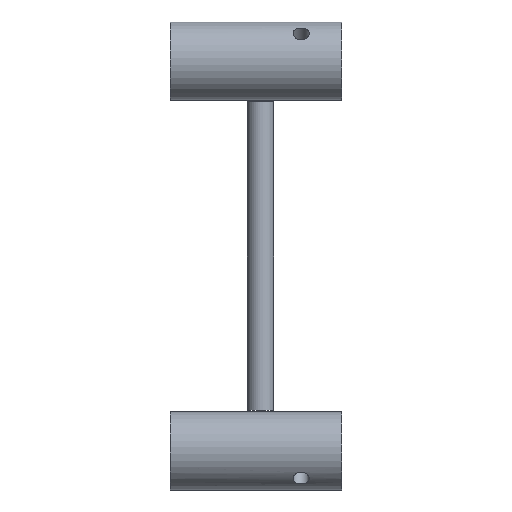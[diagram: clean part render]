
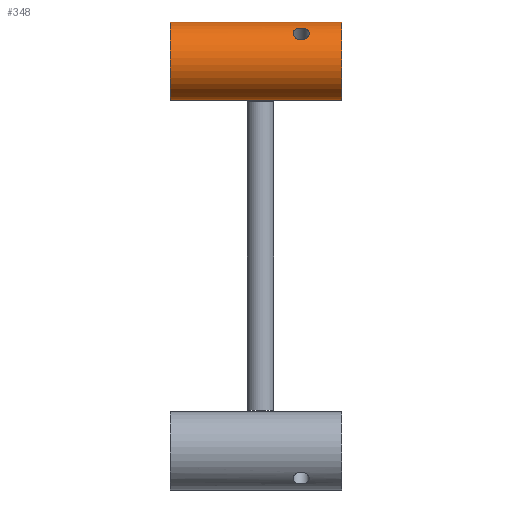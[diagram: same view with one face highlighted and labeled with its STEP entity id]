
A CAD part, front view. The second image highlights one B-rep face of the part: STEP entity #348.
In plain terms, the highlighted cylindrical face has radius 24.15 mm (diameter 48.3 mm), a full revolution.
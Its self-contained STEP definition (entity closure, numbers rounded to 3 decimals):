
#13=B_SPLINE_CURVE_WITH_KNOTS('',3,(#530,#531,#532,#533,#534,#535,#536,
#537,#538,#539,#540,#541,#542,#543,#544,#545,#546,#547,#548),
 .UNSPECIFIED.,.F.,.F.,(4,2,2,2,3,2,2,2,4),(2.267,2.456,
2.645,2.834,3.023,3.212,3.401,
3.59,3.779),.UNSPECIFIED.);
#14=B_SPLINE_CURVE_WITH_KNOTS('',3,(#549,#550,#551,#552,#553,#554,#555,
#556,#557,#558,#559,#560,#561,#562,#563,#564,#565,#566),.UNSPECIFIED.,.F.,
 .F.,(4,2,2,2,2,2,2,2,4),(0.756,0.945,1.134,
1.323,1.511,1.7,1.889,2.078,
2.267),.UNSPECIFIED.);
#15=B_SPLINE_CURVE_WITH_KNOTS('',3,(#569,#570,#571,#572,#573,#574,#575,
#576,#577,#578,#579,#580,#581,#582,#583,#584,#585,#586),.UNSPECIFIED.,.F.,
 .F.,(4,2,2,2,2,2,2,2,4),(0.756,0.945,1.134,
1.323,1.511,1.7,1.889,2.078,
2.267),.UNSPECIFIED.);
#16=B_SPLINE_CURVE_WITH_KNOTS('',3,(#587,#588,#589,#590,#591,#592,#593,
#594,#595,#596,#597,#598,#599,#600,#601,#602,#603,#604,#605),
 .UNSPECIFIED.,.F.,.F.,(4,2,2,2,3,2,2,2,4),(2.267,2.456,
2.645,2.834,3.023,3.212,3.401,
3.59,3.779),.UNSPECIFIED.);
#40=FACE_BOUND('',#108,.T.);
#41=FACE_BOUND('',#109,.T.);
#42=FACE_BOUND('',#110,.T.);
#60=CYLINDRICAL_SURFACE('',#389,24.15);
#76=FACE_OUTER_BOUND('',#107,.T.);
#107=EDGE_LOOP('',(#237));
#108=EDGE_LOOP('',(#238,#239));
#109=EDGE_LOOP('',(#240,#241));
#110=EDGE_LOOP('',(#242));
#149=CIRCLE('',#390,24.15);
#150=CIRCLE('',#391,24.15);
#165=VERTEX_POINT('',#528);
#166=VERTEX_POINT('',#529);
#167=VERTEX_POINT('',#567);
#168=VERTEX_POINT('',#568);
#169=VERTEX_POINT('',#607);
#170=VERTEX_POINT('',#609);
#197=EDGE_CURVE('',#165,#166,#13,.T.);
#198=EDGE_CURVE('',#166,#165,#14,.T.);
#199=EDGE_CURVE('',#167,#168,#15,.T.);
#200=EDGE_CURVE('',#168,#167,#16,.T.);
#201=EDGE_CURVE('',#169,#169,#149,.T.);
#202=EDGE_CURVE('',#170,#170,#150,.T.);
#237=ORIENTED_EDGE('',*,*,#201,.F.);
#238=ORIENTED_EDGE('',*,*,#198,.T.);
#239=ORIENTED_EDGE('',*,*,#197,.T.);
#240=ORIENTED_EDGE('',*,*,#199,.T.);
#241=ORIENTED_EDGE('',*,*,#200,.T.);
#242=ORIENTED_EDGE('',*,*,#202,.T.);
#348=ADVANCED_FACE('',(#76,#40,#41,#42),#60,.T.);
#389=AXIS2_PLACEMENT_3D('',#606,#446,#447);
#390=AXIS2_PLACEMENT_3D('',#608,#448,#449);
#391=AXIS2_PLACEMENT_3D('',#610,#450,#451);
#446=DIRECTION('center_axis',(1.,0.,0.));
#447=DIRECTION('ref_axis',(0.,-0.707,0.707));
#448=DIRECTION('center_axis',(1.,0.,0.));
#449=DIRECTION('ref_axis',(0.,-0.707,0.707));
#450=DIRECTION('center_axis',(1.,0.,0.));
#451=DIRECTION('ref_axis',(0.,-0.707,0.707));
#528=CARTESIAN_POINT('',(75.5,-261.721,11.503));
#529=CARTESIAN_POINT('',(85.5,-261.721,11.503));
#530=CARTESIAN_POINT('Ctrl Pts',(75.5,-261.721,11.503));
#531=CARTESIAN_POINT('Ctrl Pts',(75.5,-261.276,11.948));
#532=CARTESIAN_POINT('Ctrl Pts',(75.626,-260.783,12.403));
#533=CARTESIAN_POINT('Ctrl Pts',(76.137,-259.843,13.204));
#534=CARTESIAN_POINT('Ctrl Pts',(76.522,-259.397,13.552));
#535=CARTESIAN_POINT('Ctrl Pts',(77.407,-258.678,14.085));
#536=CARTESIAN_POINT('Ctrl Pts',(77.968,-258.356,14.308));
#537=CARTESIAN_POINT('Ctrl Pts',(79.2,-257.925,14.598));
#538=CARTESIAN_POINT('Ctrl Pts',(79.87,-257.816,14.668));
#539=CARTESIAN_POINT('Ctrl Pts',(80.5,-257.816,14.668));
#540=CARTESIAN_POINT('Ctrl Pts',(81.13,-257.816,14.668));
#541=CARTESIAN_POINT('Ctrl Pts',(81.8,-257.925,14.598));
#542=CARTESIAN_POINT('Ctrl Pts',(83.032,-258.356,14.308));
#543=CARTESIAN_POINT('Ctrl Pts',(83.593,-258.678,14.085));
#544=CARTESIAN_POINT('Ctrl Pts',(84.478,-259.397,13.552));
#545=CARTESIAN_POINT('Ctrl Pts',(84.863,-259.843,13.204));
#546=CARTESIAN_POINT('Ctrl Pts',(85.374,-260.783,12.403));
#547=CARTESIAN_POINT('Ctrl Pts',(85.5,-261.276,11.948));
#548=CARTESIAN_POINT('Ctrl Pts',(85.5,-261.721,11.503));
#549=CARTESIAN_POINT('Ctrl Pts',(85.5,-261.721,11.503));
#550=CARTESIAN_POINT('Ctrl Pts',(85.5,-262.167,11.057));
#551=CARTESIAN_POINT('Ctrl Pts',(85.374,-262.621,10.564));
#552=CARTESIAN_POINT('Ctrl Pts',(84.863,-263.423,9.624));
#553=CARTESIAN_POINT('Ctrl Pts',(84.478,-263.77,9.178));
#554=CARTESIAN_POINT('Ctrl Pts',(83.593,-264.304,8.459));
#555=CARTESIAN_POINT('Ctrl Pts',(83.032,-264.526,8.137));
#556=CARTESIAN_POINT('Ctrl Pts',(81.8,-264.817,7.706));
#557=CARTESIAN_POINT('Ctrl Pts',(81.13,-264.887,7.597));
#558=CARTESIAN_POINT('Ctrl Pts',(79.87,-264.887,7.597));
#559=CARTESIAN_POINT('Ctrl Pts',(79.2,-264.817,7.706));
#560=CARTESIAN_POINT('Ctrl Pts',(77.968,-264.526,8.137));
#561=CARTESIAN_POINT('Ctrl Pts',(77.407,-264.304,8.459));
#562=CARTESIAN_POINT('Ctrl Pts',(76.522,-263.77,9.178));
#563=CARTESIAN_POINT('Ctrl Pts',(76.137,-263.423,9.624));
#564=CARTESIAN_POINT('Ctrl Pts',(75.626,-262.621,10.564));
#565=CARTESIAN_POINT('Ctrl Pts',(75.5,-262.167,11.057));
#566=CARTESIAN_POINT('Ctrl Pts',(75.5,-261.721,11.503));
#567=CARTESIAN_POINT('',(75.5,-227.568,-22.651));
#568=CARTESIAN_POINT('',(85.5,-227.568,-22.651));
#569=CARTESIAN_POINT('Ctrl Pts',(75.5,-227.568,-22.651));
#570=CARTESIAN_POINT('Ctrl Pts',(75.5,-228.013,-23.096));
#571=CARTESIAN_POINT('Ctrl Pts',(75.626,-228.507,-23.551));
#572=CARTESIAN_POINT('Ctrl Pts',(76.137,-229.447,-24.352));
#573=CARTESIAN_POINT('Ctrl Pts',(76.522,-229.892,-24.7));
#574=CARTESIAN_POINT('Ctrl Pts',(77.407,-230.611,-25.234));
#575=CARTESIAN_POINT('Ctrl Pts',(77.968,-230.933,-25.456));
#576=CARTESIAN_POINT('Ctrl Pts',(79.2,-231.365,-25.747));
#577=CARTESIAN_POINT('Ctrl Pts',(79.87,-231.474,-25.816));
#578=CARTESIAN_POINT('Ctrl Pts',(81.13,-231.474,-25.816));
#579=CARTESIAN_POINT('Ctrl Pts',(81.8,-231.365,-25.747));
#580=CARTESIAN_POINT('Ctrl Pts',(83.032,-230.933,-25.456));
#581=CARTESIAN_POINT('Ctrl Pts',(83.593,-230.611,-25.234));
#582=CARTESIAN_POINT('Ctrl Pts',(84.478,-229.892,-24.7));
#583=CARTESIAN_POINT('Ctrl Pts',(84.863,-229.447,-24.352));
#584=CARTESIAN_POINT('Ctrl Pts',(85.374,-228.507,-23.551));
#585=CARTESIAN_POINT('Ctrl Pts',(85.5,-228.013,-23.096));
#586=CARTESIAN_POINT('Ctrl Pts',(85.5,-227.568,-22.651));
#587=CARTESIAN_POINT('Ctrl Pts',(85.5,-227.568,-22.651));
#588=CARTESIAN_POINT('Ctrl Pts',(85.5,-227.123,-22.205));
#589=CARTESIAN_POINT('Ctrl Pts',(85.374,-226.668,-21.712));
#590=CARTESIAN_POINT('Ctrl Pts',(84.863,-225.866,-20.772));
#591=CARTESIAN_POINT('Ctrl Pts',(84.478,-225.519,-20.326));
#592=CARTESIAN_POINT('Ctrl Pts',(83.593,-224.985,-19.607));
#593=CARTESIAN_POINT('Ctrl Pts',(83.032,-224.763,-19.286));
#594=CARTESIAN_POINT('Ctrl Pts',(81.8,-224.472,-18.854));
#595=CARTESIAN_POINT('Ctrl Pts',(81.13,-224.402,-18.745));
#596=CARTESIAN_POINT('Ctrl Pts',(80.5,-224.402,-18.745));
#597=CARTESIAN_POINT('Ctrl Pts',(79.87,-224.402,-18.745));
#598=CARTESIAN_POINT('Ctrl Pts',(79.2,-224.472,-18.854));
#599=CARTESIAN_POINT('Ctrl Pts',(77.968,-224.763,-19.286));
#600=CARTESIAN_POINT('Ctrl Pts',(77.407,-224.985,-19.607));
#601=CARTESIAN_POINT('Ctrl Pts',(76.522,-225.519,-20.326));
#602=CARTESIAN_POINT('Ctrl Pts',(76.137,-225.866,-20.772));
#603=CARTESIAN_POINT('Ctrl Pts',(75.626,-226.668,-21.712));
#604=CARTESIAN_POINT('Ctrl Pts',(75.5,-227.123,-22.205));
#605=CARTESIAN_POINT('Ctrl Pts',(75.5,-227.568,-22.651));
#606=CARTESIAN_POINT('Origin',(52.75,-244.645,-5.574));
#607=CARTESIAN_POINT('',(105.5,-261.721,11.503));
#608=CARTESIAN_POINT('Origin',(105.5,-244.645,-5.574));
#609=CARTESIAN_POINT('',(0.,-261.721,11.503));
#610=CARTESIAN_POINT('Origin',(0.,-244.645,
-5.574));
